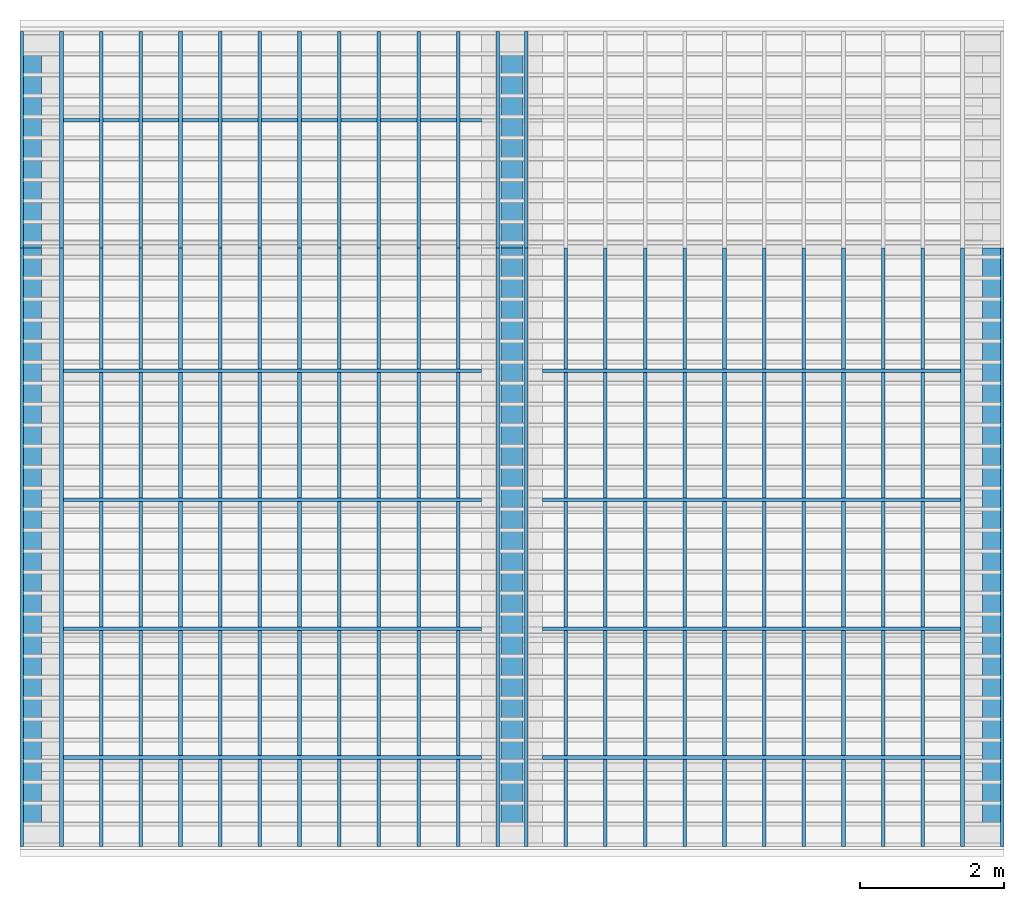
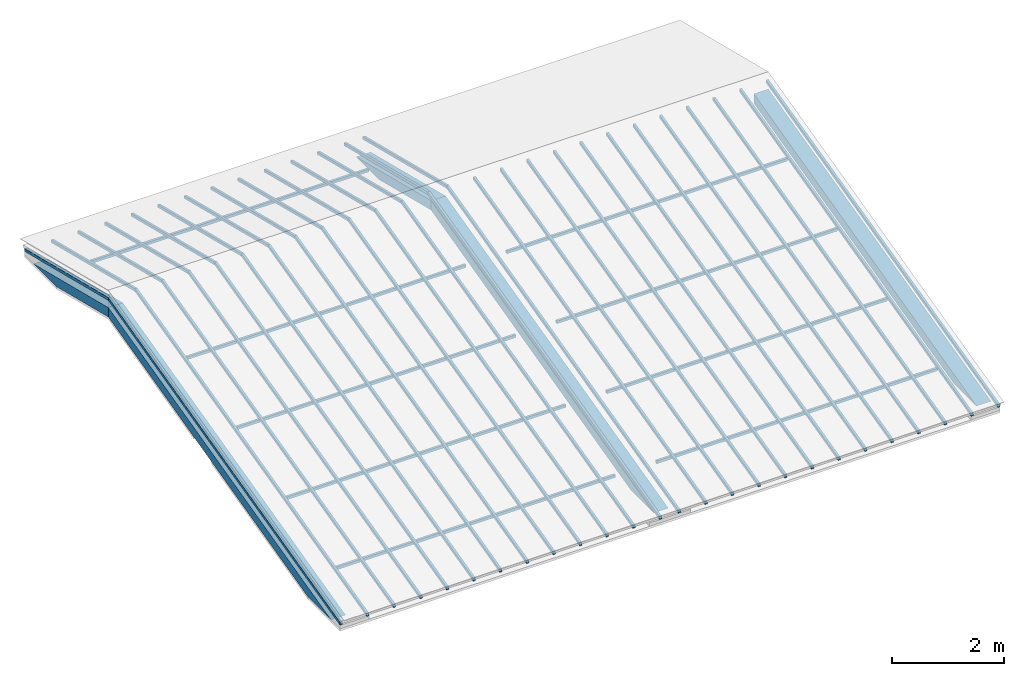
# One storey, part 1 of 3: 54 beams.
"""IFC2X3 building model written with IfcOpenShell, lengths in millimetres."""

import ifcopenshell
import ifcopenshell.guid

model = None  # the IFC model being written
_history = None  # IfcOwnerHistory: only IFC2X3 demands one
_inside = {}  # id of a spatial element -> (the spatial element, [elements in it])
_under = {}  # id of a project, library or spatial element -> (it, [spatial elements below it])
_declared = {}  # id of a project -> (the project, [libraries it declares])
_typed = {}  # id of a type object -> (the type object, [elements of that type])
_made_of = {}  # id of a material, layer set ... -> (it, [elements and type objects made of it])


def new_model(schema):
    """Start an empty IFC model of exactly this schema.

    Asked for "IFC4X3", IfcOpenShell would pick the latest addendum, in which some entities
    have other attributes; the version numbers below select the first issue.
    IFC2X3 requires an IfcOwnerHistory on every rooted entity: one is made here for all.
    """
    global model, _history
    if schema == "IFC4X3":
        model = ifcopenshell.file(schema_version=(4, 3, 0, 0))
    else:
        model = ifcopenshell.file(schema=schema)
    _inside.clear()
    _under.clear()
    _declared.clear()
    _typed.clear()
    _made_of.clear()
    _history = None
    if model.schema == "IFC2X3":
        org = make("IfcOrganization", Name="unknown")
        user = make(
            "IfcPersonAndOrganization",
            ThePerson=make("IfcPerson", FamilyName="unknown"),
            TheOrganization=org,
        )
        app = make(
            "IfcApplication",
            ApplicationDeveloper=org,
            Version="unknown",
            ApplicationFullName="unknown",
            ApplicationIdentifier="unknown",
        )
        _history = make(
            "IfcOwnerHistory",
            OwningUser=user,
            OwningApplication=app,
            ChangeAction="ADDED",
            CreationDate=0,
        )
    return model


def make(cls, **values):
    """One entity of the class cls with the attributes given. An attribute that is None is left unset."""
    return model.create_entity(
        cls, **{name: value for name, value in values.items() if value is not None}
    )


def entity(cls, *values):
    """Any entity or typed value of the class cls, its attributes in the order of the schema. None: left unset."""
    e = model.create_entity(cls)
    for i, value in enumerate(values):
        if value is not None:
            e[i] = value
    return e


def rooted(cls, **values):
    """An entity with a GlobalId (a new one), such as an element, a storey or a relation."""
    return make(cls, GlobalId=ifcopenshell.guid.new(), OwnerHistory=_history, **values)


def si_unit(unit_type, name, prefix=None):
    """IfcSIUnit, for example si_unit("LENGTHUNIT", "METRE", prefix="MILLI")."""
    return make("IfcSIUnit", UnitType=unit_type, Prefix=prefix, Name=name)


def converted_unit(unit_type, name, factor, base, dimensions=None, offset=None):
    """IfcConversionBasedUnit, such as the inch: factor (a typed value) times the base unit."""
    return make(
        "IfcConversionBasedUnit"
        if offset is None
        else "IfcConversionBasedUnitWithOffset",
        ConversionOffset=offset,
        Dimensions=None
        if dimensions is None
        else entity("IfcDimensionalExponents", *dimensions),
        UnitType=unit_type,
        Name=name,
        ConversionFactor=make(
            "IfcMeasureWithUnit", ValueComponent=factor, UnitComponent=base
        ),
    )


def derived_unit(unit_type, elements):
    """IfcDerivedUnit: a product of units, each with its exponent."""
    return make(
        "IfcDerivedUnit",
        Elements=[
            make("IfcDerivedUnitElement", Unit=unit, Exponent=power)
            for unit, power in elements
        ],
        UnitType=unit_type,
    )


def money_unit(currency):
    """IfcMonetaryUnit."""
    return make("IfcMonetaryUnit", Currency=currency)


def assignment(units):
    """IfcUnitAssignment: the units of a project."""
    return None if units is None else make("IfcUnitAssignment", Units=units)


def point(xyz):
    """IfcCartesianPoint."""
    return None if xyz is None else make("IfcCartesianPoint", Coordinates=xyz)


def direction(xyz):
    """IfcDirection."""
    return None if xyz is None else make("IfcDirection", DirectionRatios=xyz)


def frame(location, z_axis=None, x_axis=None):
    """IfcAxis2Placement3D, a coordinate frame: its origin and axes. An axis left out is left unset."""
    return make(
        "IfcAxis2Placement3D",
        Location=point(location),
        Axis=direction(z_axis),
        RefDirection=direction(x_axis),
    )


def frame_2d(location, x_axis=None):
    """IfcAxis2Placement2D, a coordinate frame in the plane: its origin and x axis."""
    return make(
        "IfcAxis2Placement2D", Location=point(location), RefDirection=direction(x_axis)
    )


def origin_with_axes():
    """The frame at (0, 0, 0) with the z axis (0, 0, 1) and the x axis (1, 0, 0) written out."""
    return frame((0.0, 0.0, 0.0), z_axis=(0.0, 0.0, 1.0), x_axis=(1.0, 0.0, 0.0))


def place(relative_to, where):
    """IfcLocalPlacement: puts the frame where relative to a parent placement (None: the world)."""
    return make(
        "IfcLocalPlacement", PlacementRelTo=relative_to, RelativePlacement=where
    )


def context(
    kind, dimensions, precision=None, world=None, true_north=None, identifier=None
):
    """IfcGeometricRepresentationContext, for example the 3D "Model" context."""
    return make(
        "IfcGeometricRepresentationContext",
        ContextIdentifier=identifier,
        ContextType=kind,
        CoordinateSpaceDimension=dimensions,
        Precision=precision,
        WorldCoordinateSystem=world,
        TrueNorth=true_north,
    )


def subcontext(parent, identifier, kind, view, scale=None):
    """IfcGeometricRepresentationSubContext, for example "Body" below "Model"."""
    return make(
        "IfcGeometricRepresentationSubContext",
        ContextIdentifier=identifier,
        ContextType=kind,
        ParentContext=parent,
        TargetScale=scale,
        TargetView=view,
    )


def project(units=None, contexts=None):
    """IfcProject with its units and contexts."""
    return rooted(
        "IfcProject",
        Name="project",
        RepresentationContexts=contexts,
        UnitsInContext=assignment(units),
    )


def spatial(cls, under=None, at=None, **own):
    """A site, building, storey or space (cls), placed at a placement, below another one or the project."""
    s = rooted(cls, ObjectPlacement=at, **own)
    if under is not None:
        _under.setdefault(under.id(), (under, []))[1].append(s)
    return s


def profile(cls, at=None, kind="AREA", **sizes):
    """A parametric profile (cls). Its sizes go by their IFC names, for example OverallWidth=200.0."""
    return make(cls, ProfileType=kind, Position=at, **sizes)


def rectangle(**sizes):
    """IfcRectangleProfileDef."""
    return profile("IfcRectangleProfileDef", **sizes)


def extrude(swept, where, along, depth):
    """IfcExtrudedAreaSolid: the profile swept, set in the frame where, extruded along a direction by depth."""
    return make(
        "IfcExtrudedAreaSolid",
        SweptArea=swept,
        Position=where,
        ExtrudedDirection=direction(along),
        Depth=depth,
    )


def clip(a, b, op="DIFFERENCE"):
    """IfcBooleanClippingResult: the solid a cut by the half space b."""
    return make(
        "IfcBooleanClippingResult", Operator=op, FirstOperand=a, SecondOperand=b
    )


def halfspace(plane, agree):
    """IfcHalfSpaceSolid: all space on one side of the plane z = 0 of the frame plane."""
    return make(
        "IfcHalfSpaceSolid",
        BaseSurface=make("IfcPlane", Position=plane),
        AgreementFlag=agree,
    )


def shape(context_of_items, identifier, shape_type, items):
    """IfcShapeRepresentation: the items that make up one representation, for example the "Body"."""
    return make(
        "IfcShapeRepresentation",
        ContextOfItems=context_of_items,
        RepresentationIdentifier=identifier,
        RepresentationType=shape_type,
        Items=items,
    )


def material(Name=None, Category=None):
    """IfcMaterial."""
    return make("IfcMaterial", Name=Name, Category=Category)


def made_of(thing, what):
    """Note that an element or type object is made of a material, layer set ...; save() writes the relation."""
    if what is not None:
        _made_of.setdefault(what.id(), (what, []))[1].append(thing)
    return thing


def type_object(cls, material=None, **own):
    """A type object (cls), such as IfcWallType, which elements share."""
    return made_of(rooted(cls, **own), material)


def element(
    cls,
    number,
    at=None,
    inside=None,
    cuts=None,
    type_object=None,
    material=None,
    context=None,
    identifier="Body",
    shape_type=None,
    held_by="IfcProductDefinitionShape",
    body=None,
    shapes=None,
    **own,
):
    """One element of the class cls, such as IfcWall. Its Tag is "e" and its number.

    at: its placement. inside: the storey or other place that contains it. cuts: it is an
    opening in that element (IfcRelVoidsElement). A single representation is given by context,
    identifier, shape_type and body (its items); several are given by shapes. held_by: the class
    of the entity that holds the representations. save() writes the other relations.
    """
    e = rooted(cls, Tag="e%d" % number, ObjectPlacement=at, **own)
    if body is not None:
        shapes = [shape(context, identifier, shape_type, body)]
    if shapes is not None:
        e.Representation = make(held_by, Representations=shapes)
    if inside is not None:
        _inside.setdefault(inside.id(), (inside, []))[1].append(e)
    if cuts is not None:
        rooted(
            "IfcRelVoidsElement", RelatingBuildingElement=cuts, RelatedOpeningElement=e
        )
    if type_object is not None:
        _typed.setdefault(type_object.id(), (type_object, []))[1].append(e)
    return made_of(e, material)


def aggregate(whole, parts):
    """IfcRelAggregates: a whole, such as a stair, and the parts it consists of."""
    return rooted("IfcRelAggregates", RelatingObject=whole, RelatedObjects=parts)


def save(model, path):
    """Write the relations noted so far, then the file.

    IfcRelAggregates (storeys below a building ...), IfcRelContainedInSpatialStructure (elements
    in a storey), IfcRelDefinesByType, IfcRelAssociatesMaterial and IfcRelDeclares: one each for
    every whole, place, type object, material and project.
    """
    for whole, parts in _under.values():
        aggregate(whole, parts)
    for where, things in _inside.values():
        rooted(
            "IfcRelContainedInSpatialStructure",
            RelatedElements=things,
            RelatingStructure=where,
        )
    for kind, things in _typed.values():
        rooted("IfcRelDefinesByType", RelatedObjects=things, RelatingType=kind)
    for what, things in _made_of.values():
        rooted("IfcRelAssociatesMaterial", RelatedObjects=things, RelatingMaterial=what)
    for by, libraries in _declared.values():
        rooted("IfcRelDeclares", RelatingContext=by, RelatedDefinitions=libraries)
    model.write(path)


model = new_model("IFC2X3")

# Units and contexts
model_context = context("Model", 3, precision=0.01, world=origin_with_axes(), true_north=direction((0.293984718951, 0.955810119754)))
body_context = subcontext(model_context, "Body", "Model", "MODEL_VIEW")
ifc_project = project(units=[si_unit("LENGTHUNIT", "METRE", prefix="MILLI"), si_unit("AREAUNIT", "SQUARE_METRE"), si_unit("VOLUMEUNIT", "CUBIC_METRE"), converted_unit("PLANEANGLEUNIT", "DEGREE", entity("IfcPlaneAngleMeasure", 0.0174532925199), si_unit("PLANEANGLEUNIT", "RADIAN"), dimensions=[0, 0, 0, 0, 0, 0, 0]), si_unit("SOLIDANGLEUNIT", "STERADIAN"), money_unit("USD"), converted_unit("TIMEUNIT", "Year", entity("IfcTimeMeasure", 31556926.0), si_unit("TIMEUNIT", "SECOND"), dimensions=[0, 0, 1, 0, 0, 0, 0]), si_unit("MASSUNIT", "GRAM", prefix="KILO"), si_unit("THERMODYNAMICTEMPERATUREUNIT", "DEGREE_CELSIUS"), si_unit("LUMINOUSINTENSITYUNIT", "LUMEN"), si_unit("ENERGYUNIT", "JOULE", prefix="MEGA"), derived_unit("THERMALCONDUCTANCEUNIT", [(si_unit("POWERUNIT", "WATT"), 1), (si_unit("LENGTHUNIT", "METRE"), -1), (si_unit("THERMODYNAMICTEMPERATUREUNIT", "KELVIN"), -1)]), derived_unit("SPECIFICHEATCAPACITYUNIT", [(si_unit("ENERGYUNIT", "JOULE"), 1), (si_unit("MASSUNIT", "GRAM", prefix="KILO"), -1), (si_unit("THERMODYNAMICTEMPERATUREUNIT", "KELVIN"), -1)]), derived_unit("MASSDENSITYUNIT", [(si_unit("MASSUNIT", "GRAM", prefix="KILO"), 1), (si_unit("VOLUMEUNIT", "CUBIC_METRE"), -1)])], contexts=[model_context])

# Site, building, storey
site_placement = place(None, origin_with_axes())
site = spatial("IfcSite", under=ifc_project, at=site_placement, Name="Local", CompositionType="ELEMENT")
building_placement = place(site_placement, origin_with_axes())
building = spatial("IfcBuilding", under=site, at=building_placement, Name="Construção", CompositionType="ELEMENT")
storey_placement = place(building_placement, frame((0.0, 0.0, 5800.0), z_axis=(0.0, 0.0, 1.0), x_axis=(1.0, 0.0, 0.0)))
storey = spatial("IfcBuildingStorey", under=building, at=storey_placement, Name="Pavimento Cobertura", CompositionType="ELEMENT", Elevation=5800.0)

# Beams
ifc_material_1 = material(Name="Concreto Armado - Estrutural")
beam_type_1 = type_object("IfcBeamType", Name="Concreto Armado - Estrutural 300 x 200", PredefinedType="NOTDEFINED")
beam_1_placement = place(storey_placement, frame((20649.6450715, 10787.3064984, 513.403828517), z_axis=(0.0, 0.0, 1.0), x_axis=(-1.0, -1.60654731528e-10, 0.0)))
element("IfcBeam", 1, at=beam_1_placement, inside=storey, type_object=beam_type_1, material=ifc_material_1, Name="V11", context=body_context, shape_type="Clipping", body=[
    clip(clip(extrude(rectangle(XDim=200.0, YDim=300.0, at=frame_2d((100.0, 150.0), x_axis=(1.0, 0.0))), frame((0.0, -68.4258451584, 17.0604793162), z_axis=(0.0, 0.970295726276, -0.2419218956), x_axis=(0.0, 0.2419218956, 0.970295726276)), (0.0, 0.0, 1.0), 8571.25168252), halfspace(frame((0.0, 0.0, 0.0), z_axis=(0.0, 1.0, 0.0), x_axis=(0.0, 0.0, 1.0)), True)), halfspace(frame((0.0, 0.0, -1782.07190026), z_axis=(0.0, 0.0, 1.0), x_axis=(0.0, -1.0, 0.0)), True)),
])
beam_2_placement = place(storey_placement, frame((7009.64507382, 10787.3064984, 513.403828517), z_axis=(0.0, 0.0, 1.0), x_axis=(1.0, 4.20530067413e-10, 0.0)))
element("IfcBeam", 2, at=beam_2_placement, inside=storey, type_object=beam_type_1, material=ifc_material_1, Name="V10", context=body_context, shape_type="Clipping", body=[
    clip(clip(extrude(rectangle(XDim=200.0, YDim=300.0, at=frame_2d((100.0, 150.0), x_axis=(1.0, 0.0))), frame((0.0, -68.4258451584, 17.0604793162), z_axis=(0.0, 0.970295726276, -0.2419218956), x_axis=(0.0, 0.2419218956, 0.970295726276)), (0.0, 0.0, 1.0), 3114.15251581), halfspace(frame((0.0, 0.0, 0.0), z_axis=(0.0, 1.0, 0.0), x_axis=(0.0, 0.0, 1.0)), True)), halfspace(frame((0.0, 0.0, -461.880125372), z_axis=(0.0, 0.0, 1.0), x_axis=(0.0, -1.0, 0.0)), True)),
])
beam_3_placement = place(storey_placement, frame((7009.64507382, 10787.3064984, 513.403828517), z_axis=(0.0, 0.0, 1.0), x_axis=(-1.0, 1.60654482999e-10, 0.0)))
element("IfcBeam", 3, at=beam_3_placement, inside=storey, type_object=beam_type_1, material=ifc_material_1, Name="V11", context=body_context, shape_type="Clipping", body=[
    clip(clip(extrude(rectangle(XDim=200.0, YDim=300.0, at=frame_2d((100.0, -150.0), x_axis=(1.0, 0.0))), frame((0.0, -68.4258451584, 17.0604793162), z_axis=(0.0, 0.970295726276, -0.2419218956), x_axis=(0.0, 0.2419218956, 0.970295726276)), (0.0, 0.0, 1.0), 8571.25168252), halfspace(frame((0.0, 0.0, 0.0), z_axis=(0.0, 1.0, 0.0), x_axis=(0.0, 0.0, 1.0)), True)), halfspace(frame((0.0, 0.0, -1782.07190026), z_axis=(0.0, 0.0, 1.0), x_axis=(0.0, -1.0, 0.0)), True)),
])
beam_4_placement = place(storey_placement, frame((13829.6450728, 10787.3064984, 513.403828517), z_axis=(0.0, 0.0, 1.0), x_axis=(1.0, 4.20530067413e-10, 0.0)))
element("IfcBeam", 4, at=beam_4_placement, inside=storey, type_object=beam_type_1, material=ifc_material_1, Name="V10", context=body_context, shape_type="Clipping", body=[
    clip(clip(extrude(rectangle(XDim=200.0, YDim=300.0, at=frame_2d((100.0, 0.0), x_axis=(1.0, 0.0))), frame((0.0, -68.4258451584, 17.0604793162), z_axis=(0.0, 0.970295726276, -0.2419218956), x_axis=(0.0, 0.2419218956, 0.970295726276)), (0.0, 0.0, 1.0), 3114.15251581), halfspace(frame((0.0, 0.0, 0.0), z_axis=(0.0, 1.0, 0.0), x_axis=(0.0, 0.0, 1.0)), True)), halfspace(frame((0.0, 0.0, -461.880125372), z_axis=(0.0, 0.0, 1.0), x_axis=(0.0, -1.0, 0.0)), True)),
])
beam_5_placement = place(storey_placement, frame((13829.6450728, 10787.3064984, 513.403828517), z_axis=(0.0, 0.0, 1.0), x_axis=(-1.0, 1.60654482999e-10, 0.0)))
element("IfcBeam", 5, at=beam_5_placement, inside=storey, type_object=beam_type_1, material=ifc_material_1, Name="V11", context=body_context, shape_type="Clipping", body=[
    clip(clip(extrude(rectangle(XDim=200.0, YDim=300.0, at=frame_2d((100.0, 0.0), x_axis=(1.0, 0.0))), frame((0.0, -68.4258451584, 17.0604793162), z_axis=(0.0, 0.970295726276, -0.2419218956), x_axis=(0.0, 0.2419218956, 0.970295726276)), (0.0, 0.0, 1.0), 8571.25168252), halfspace(frame((0.0, 0.0, 0.0), z_axis=(0.0, 1.0, 0.0), x_axis=(0.0, 0.0, 1.0)), True)), halfspace(frame((0.0, 0.0, -1782.07190026), z_axis=(0.0, 0.0, 1.0), x_axis=(0.0, -1.0, 0.0)), True)),
])
ifc_material_2 = material(Name="Madeiramento - Cobertura")
beam_type_2 = type_object("IfcBeamType", Name="Madeiramento - Cobertura 50 x 60", PredefinedType="NOTDEFINED")
for number, where, z_axis, x_axis, name in (
    (6, (20049.645072, 9060.43149838, 401.174540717), (0.0, 0.0, 1.0), (0.0, 1.0, 0.0), "Caibro"),
    (7, (20049.645072, 7273.55649844, -44.3434370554), (0.0, 0.0, 1.0), (0.0, 1.0, 0.0), "Caibro"),
    (8, (20049.645072, 5486.6814985, -489.861414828), (0.0, 0.0, 1.0), (0.0, 1.0, 0.0), "Caibro"),
    (9, (20049.645072, 3699.80649857, -935.3793926), (0.0, 0.0, 1.0), (0.0, 1.0, 0.0), "Caibro"),
):
    element("IfcBeam", number, at=place(storey_placement, frame(where, z_axis=z_axis, x_axis=x_axis)), inside=storey, type_object=beam_type_2, material=ifc_material_2, Name=name, context=body_context, shape_type="SweptSolid", body=[
        extrude(rectangle(XDim=60.0, YDim=50.0, at=frame_2d((30.0, 25.0), x_axis=(1.0, 0.0))), frame((0.0, 0.0, 0.0), z_axis=(0.0, 1.0, 0.0), x_axis=(0.0, 0.0, 1.0)), (0.0, 0.0, 1.0), 5794.99999926),
    ])
for number, where, z_axis, x_axis, name in (
    (10, (20649.6450715, 10787.3064984, 874.118598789), (0.0, 0.0, 1.0), (-1.0, -1.38389062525e-10, 0.0), "Caibro"),
    (11, (20099.6450715, 10787.3064984, 874.118598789), (0.0, 0.0, 1.0), (-1.0, -1.38389062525e-10, 0.0), "Caibro"),
    (12, (19549.6450715, 10787.3064984, 874.118598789), (0.0, 0.0, 1.0), (-1.0, -1.38389062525e-10, 0.0), "Caibro"),
    (13, (18999.6450715, 10787.3064984, 874.118598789), (0.0, 0.0, 1.0), (-1.0, -1.38389062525e-10, 0.0), "Caibro"),
    (14, (18449.6450715, 10787.3064984, 874.118598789), (0.0, 0.0, 1.0), (-1.0, -1.38389062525e-10, 0.0), "Caibro"),
    (15, (17899.6450715, 10787.3064984, 874.118598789), (0.0, 0.0, 1.0), (-1.0, -1.38389062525e-10, 0.0), "Caibro"),
    (16, (17349.6450715, 10787.3064984, 874.118598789), (0.0, 0.0, 1.0), (-1.0, -1.38389062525e-10, 0.0), "Caibro"),
    (17, (16799.6450715, 10787.3064984, 874.118598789), (0.0, 0.0, 1.0), (-1.0, -1.38389062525e-10, 0.0), "Caibro"),
    (18, (16249.6450715, 10787.3064984, 874.118598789), (0.0, 0.0, 1.0), (-1.0, -1.38389062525e-10, 0.0), "Caibro"),
    (19, (15699.6450715, 10787.3064984, 874.118598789), (0.0, 0.0, 1.0), (-1.0, -1.38389062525e-10, 0.0), "Caibro"),
    (20, (15149.6450715, 10787.3064984, 874.118598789), (0.0, 0.0, 1.0), (-1.0, -1.38389062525e-10, 0.0), "Caibro"),
    (21, (14599.6450715, 10787.3064984, 874.118598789), (0.0, 0.0, 1.0), (-1.0, -1.38389062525e-10, 0.0), "Caibro"),
    (22, (14049.6450715, 10787.3064983, 874.118598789), (0.0, 0.0, 1.0), (-1.0, -1.38389062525e-10, 0.0), "Caibro"),
):
    element("IfcBeam", number, at=place(storey_placement, frame(where, z_axis=z_axis, x_axis=x_axis)), inside=storey, type_object=beam_type_2, material=ifc_material_2, Name=name, context=body_context, shape_type="Clipping", body=[
        clip(clip(extrude(rectangle(XDim=60.0, YDim=50.0, at=frame_2d((30.0, 25.0), x_axis=(1.0, 0.0))), frame((0.0, -20.5277535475, 5.11814379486), z_axis=(0.0, 0.970295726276, -0.2419218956), x_axis=(0.0, 0.2419218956, 0.970295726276)), (0.0, 0.0, 1.0), 8593.82895444), halfspace(frame((0.0, 0.0, 0.0), z_axis=(0.0, 1.0, 0.0), x_axis=(0.0, 0.0, 1.0)), True)), halfspace(frame((0.0, 8297.49999975, 0.0), z_axis=(0.0, -1.0, 0.0), x_axis=(0.0, 0.0, -1.0)), True)),
    ])
beam_6_placement = place(storey_placement, frame((14049.6450715, 10787.3064983, 874.118598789), z_axis=(0.0, 0.0, 1.0), x_axis=(1.0, -2.59461099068e-10, 0.0)))
element("IfcBeam", 23, at=beam_6_placement, inside=storey, type_object=beam_type_2, material=ifc_material_2, Name="Caibro", context=body_context, shape_type="Clipping", body=[
    clip(clip(extrude(rectangle(XDim=60.0, YDim=50.0, at=frame_2d((30.0, -25.0), x_axis=(1.0, 0.0))), frame((0.0, -20.5277535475, 5.11814379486), z_axis=(0.0, 0.970295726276, -0.2419218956), x_axis=(0.0, 0.2419218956, 0.970295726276)), (0.0, 0.0, 1.0), 3136.72978773), halfspace(frame((0.0, 0.0, 0.0), z_axis=(0.0, 1.0, 0.0), x_axis=(0.0, 0.0, 1.0)), True)), halfspace(frame((0.0, 3002.50000042, 0.0), z_axis=(0.0, -1.0, 0.0), x_axis=(0.0, 0.0, -1.0)), True)),
])
for number, where, z_axis, x_axis, name in (
    (24, (7609.64507336, 12535.6308554, 383.360217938), (0.0, 0.0, 1.0), (0.0, -1.0, 0.0), "Caibro"),
    (25, (7609.64507336, 9060.43149838, 401.174540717), (0.0, 0.0, 1.0), (0.0, -1.0, 0.0), "Caibro"),
    (26, (7609.64507336, 7273.55649844, -44.3434370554), (0.0, 0.0, 1.0), (0.0, -1.0, 0.0), "Caibro"),
    (27, (7609.64507336, 5486.6814985, -489.861414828), (0.0, 0.0, 1.0), (0.0, -1.0, 0.0), "Caibro"),
    (28, (7609.64507336, 3699.80649857, -935.3793926), (0.0, 0.0, 1.0), (0.0, -1.0, 0.0), "Caibro"),
):
    element("IfcBeam", number, at=place(storey_placement, frame(where, z_axis=z_axis, x_axis=x_axis)), inside=storey, type_object=beam_type_2, material=ifc_material_2, Name=name, context=body_context, shape_type="SweptSolid", body=[
        extrude(rectangle(XDim=60.0, YDim=50.0, at=frame_2d((30.0, -25.0), x_axis=(1.0, 0.0))), frame((0.0, 0.0, 0.0), z_axis=(0.0, 1.0, 0.0), x_axis=(0.0, 0.0, 1.0)), (0.0, 0.0, 1.0), 5794.99999926),
    ])
beam_7_placement = place(storey_placement, frame((7009.64507382, 10787.3064984, 874.118598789), z_axis=(0.0, 0.0, 1.0), x_axis=(-1.0, 1.383887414e-10, 0.0)))
element("IfcBeam", 29, at=beam_7_placement, inside=storey, type_object=beam_type_2, material=ifc_material_2, Name="Caibro", context=body_context, shape_type="Clipping", body=[
    clip(clip(extrude(rectangle(XDim=60.0, YDim=50.0, at=frame_2d((30.0, -25.0), x_axis=(1.0, 0.0))), frame((0.0, -20.5277535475, 5.11814379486), z_axis=(0.0, 0.970295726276, -0.2419218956), x_axis=(0.0, 0.2419218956, 0.970295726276)), (0.0, 0.0, 1.0), 8593.82895444), halfspace(frame((0.0, 0.0, 0.0), z_axis=(0.0, 1.0, 0.0), x_axis=(0.0, 0.0, 1.0)), True)), halfspace(frame((0.0, 8297.49999975, 0.0), z_axis=(0.0, -1.0, 0.0), x_axis=(0.0, 0.0, -1.0)), True)),
])
beam_8_placement = place(storey_placement, frame((7009.64507382, 10787.3064984, 874.118598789), z_axis=(0.0, 0.0, 1.0), x_axis=(1.0, 2.59461099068e-10, 0.0)))
element("IfcBeam", 30, at=beam_8_placement, inside=storey, type_object=beam_type_2, material=ifc_material_2, Name="Caibro", context=body_context, shape_type="Clipping", body=[
    clip(clip(extrude(rectangle(XDim=60.0, YDim=50.0, at=frame_2d((30.0, 25.0), x_axis=(1.0, 0.0))), frame((0.0, -20.5277535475, 5.11814379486), z_axis=(0.0, 0.970295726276, -0.2419218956), x_axis=(0.0, 0.2419218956, 0.970295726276)), (0.0, 0.0, 1.0), 3136.72978773), halfspace(frame((0.0, 0.0, 0.0), z_axis=(0.0, 1.0, 0.0), x_axis=(0.0, 0.0, 1.0)), True)), halfspace(frame((0.0, 3002.50000042, 0.0), z_axis=(0.0, -1.0, 0.0), x_axis=(0.0, 0.0, -1.0)), True)),
])
beam_9_placement = place(storey_placement, frame((7559.64507382, 10787.3064984, 874.118598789), z_axis=(0.0, 0.0, 1.0), x_axis=(-1.0, 1.383887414e-10, 0.0)))
element("IfcBeam", 31, at=beam_9_placement, inside=storey, type_object=beam_type_2, material=ifc_material_2, Name="Caibro", context=body_context, shape_type="Clipping", body=[
    clip(clip(extrude(rectangle(XDim=60.0, YDim=50.0, at=frame_2d((30.0, -25.0), x_axis=(1.0, 0.0))), frame((0.0, -20.5277535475, 5.11814379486), z_axis=(0.0, 0.970295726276, -0.2419218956), x_axis=(0.0, 0.2419218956, 0.970295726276)), (0.0, 0.0, 1.0), 8593.82895444), halfspace(frame((0.0, 0.0, 0.0), z_axis=(0.0, 1.0, 0.0), x_axis=(0.0, 0.0, 1.0)), True)), halfspace(frame((0.0, 8297.49999975, 0.0), z_axis=(0.0, -1.0, 0.0), x_axis=(0.0, 0.0, -1.0)), True)),
])
beam_10_placement = place(storey_placement, frame((7559.64507382, 10787.3064984, 874.118598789), z_axis=(0.0, 0.0, 1.0), x_axis=(1.0, 2.59461099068e-10, 0.0)))
element("IfcBeam", 32, at=beam_10_placement, inside=storey, type_object=beam_type_2, material=ifc_material_2, Name="Caibro", context=body_context, shape_type="Clipping", body=[
    clip(clip(extrude(rectangle(XDim=60.0, YDim=50.0, at=frame_2d((30.0, 25.0), x_axis=(1.0, 0.0))), frame((0.0, -20.5277535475, 5.11814379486), z_axis=(0.0, 0.970295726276, -0.2419218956), x_axis=(0.0, 0.2419218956, 0.970295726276)), (0.0, 0.0, 1.0), 3136.72978773), halfspace(frame((0.0, 0.0, 0.0), z_axis=(0.0, 1.0, 0.0), x_axis=(0.0, 0.0, 1.0)), True)), halfspace(frame((0.0, 3002.50000042, 0.0), z_axis=(0.0, -1.0, 0.0), x_axis=(0.0, 0.0, -1.0)), True)),
])
beam_11_placement = place(storey_placement, frame((8109.64507382, 10787.3064984, 874.118598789), z_axis=(0.0, 0.0, 1.0), x_axis=(-1.0, 1.38388634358e-10, 0.0)))
element("IfcBeam", 33, at=beam_11_placement, inside=storey, type_object=beam_type_2, material=ifc_material_2, Name="Caibro", context=body_context, shape_type="Clipping", body=[
    clip(clip(extrude(rectangle(XDim=60.0, YDim=50.0, at=frame_2d((30.0, -25.0), x_axis=(1.0, 0.0))), frame((0.0, -20.5277535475, 5.11814379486), z_axis=(0.0, 0.970295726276, -0.2419218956), x_axis=(0.0, 0.2419218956, 0.970295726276)), (0.0, 0.0, 1.0), 8593.82895444), halfspace(frame((0.0, 0.0, 0.0), z_axis=(0.0, 1.0, 0.0), x_axis=(0.0, 0.0, 1.0)), True)), halfspace(frame((0.0, 8297.49999975, 0.0), z_axis=(0.0, -1.0, 0.0), x_axis=(0.0, 0.0, -1.0)), True)),
])
beam_12_placement = place(storey_placement, frame((8109.64507382, 10787.3064984, 874.118598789), z_axis=(0.0, 0.0, 1.0), x_axis=(1.0, 2.59461099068e-10, 0.0)))
element("IfcBeam", 34, at=beam_12_placement, inside=storey, type_object=beam_type_2, material=ifc_material_2, Name="Caibro", context=body_context, shape_type="Clipping", body=[
    clip(clip(extrude(rectangle(XDim=60.0, YDim=50.0, at=frame_2d((30.0, 25.0), x_axis=(1.0, 0.0))), frame((0.0, -20.5277535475, 5.11814379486), z_axis=(0.0, 0.970295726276, -0.2419218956), x_axis=(0.0, 0.2419218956, 0.970295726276)), (0.0, 0.0, 1.0), 3136.72978773), halfspace(frame((0.0, 0.0, 0.0), z_axis=(0.0, 1.0, 0.0), x_axis=(0.0, 0.0, 1.0)), True)), halfspace(frame((0.0, 3002.50000042, 0.0), z_axis=(0.0, -1.0, 0.0), x_axis=(0.0, 0.0, -1.0)), True)),
])
beam_13_placement = place(storey_placement, frame((8659.64507382, 10787.3064984, 874.118598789), z_axis=(0.0, 0.0, 1.0), x_axis=(-1.0, 1.38388634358e-10, 0.0)))
element("IfcBeam", 35, at=beam_13_placement, inside=storey, type_object=beam_type_2, material=ifc_material_2, Name="Caibro", context=body_context, shape_type="Clipping", body=[
    clip(clip(extrude(rectangle(XDim=60.0, YDim=50.0, at=frame_2d((30.0, -25.0), x_axis=(1.0, 0.0))), frame((0.0, -20.5277535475, 5.11814379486), z_axis=(0.0, 0.970295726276, -0.2419218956), x_axis=(0.0, 0.2419218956, 0.970295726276)), (0.0, 0.0, 1.0), 8593.82895444), halfspace(frame((0.0, 0.0, 0.0), z_axis=(0.0, 1.0, 0.0), x_axis=(0.0, 0.0, 1.0)), True)), halfspace(frame((0.0, 8297.49999975, 0.0), z_axis=(0.0, -1.0, 0.0), x_axis=(0.0, 0.0, -1.0)), True)),
])
beam_14_placement = place(storey_placement, frame((8659.64507382, 10787.3064984, 874.118598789), z_axis=(0.0, 0.0, 1.0), x_axis=(1.0, 2.59461099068e-10, 0.0)))
element("IfcBeam", 36, at=beam_14_placement, inside=storey, type_object=beam_type_2, material=ifc_material_2, Name="Caibro", context=body_context, shape_type="Clipping", body=[
    clip(clip(extrude(rectangle(XDim=60.0, YDim=50.0, at=frame_2d((30.0, 25.0), x_axis=(1.0, 0.0))), frame((0.0, -20.5277535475, 5.11814379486), z_axis=(0.0, 0.970295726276, -0.2419218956), x_axis=(0.0, 0.2419218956, 0.970295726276)), (0.0, 0.0, 1.0), 3136.72978773), halfspace(frame((0.0, 0.0, 0.0), z_axis=(0.0, 1.0, 0.0), x_axis=(0.0, 0.0, 1.0)), True)), halfspace(frame((0.0, 3002.50000042, 0.0), z_axis=(0.0, -1.0, 0.0), x_axis=(0.0, 0.0, -1.0)), True)),
])
beam_15_placement = place(storey_placement, frame((9209.64507382, 10787.3064984, 874.118598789), z_axis=(0.0, 0.0, 1.0), x_axis=(-1.0, 1.38388634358e-10, 0.0)))
element("IfcBeam", 37, at=beam_15_placement, inside=storey, type_object=beam_type_2, material=ifc_material_2, Name="Caibro", context=body_context, shape_type="Clipping", body=[
    clip(clip(extrude(rectangle(XDim=60.0, YDim=50.0, at=frame_2d((30.0, -25.0), x_axis=(1.0, 0.0))), frame((0.0, -20.5277535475, 5.11814379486), z_axis=(0.0, 0.970295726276, -0.2419218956), x_axis=(0.0, 0.2419218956, 0.970295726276)), (0.0, 0.0, 1.0), 8593.82895444), halfspace(frame((0.0, 0.0, 0.0), z_axis=(0.0, 1.0, 0.0), x_axis=(0.0, 0.0, 1.0)), True)), halfspace(frame((0.0, 8297.49999975, 0.0), z_axis=(0.0, -1.0, 0.0), x_axis=(0.0, 0.0, -1.0)), True)),
])
beam_16_placement = place(storey_placement, frame((9209.64507382, 10787.3064984, 874.118598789), z_axis=(0.0, 0.0, 1.0), x_axis=(1.0, 2.59461099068e-10, 0.0)))
element("IfcBeam", 38, at=beam_16_placement, inside=storey, type_object=beam_type_2, material=ifc_material_2, Name="Caibro", context=body_context, shape_type="Clipping", body=[
    clip(clip(extrude(rectangle(XDim=60.0, YDim=50.0, at=frame_2d((30.0, 25.0), x_axis=(1.0, 0.0))), frame((0.0, -20.5277535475, 5.11814379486), z_axis=(0.0, 0.970295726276, -0.2419218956), x_axis=(0.0, 0.2419218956, 0.970295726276)), (0.0, 0.0, 1.0), 3136.72978773), halfspace(frame((0.0, 0.0, 0.0), z_axis=(0.0, 1.0, 0.0), x_axis=(0.0, 0.0, 1.0)), True)), halfspace(frame((0.0, 3002.50000042, 0.0), z_axis=(0.0, -1.0, 0.0), x_axis=(0.0, 0.0, -1.0)), True)),
])
beam_17_placement = place(storey_placement, frame((9759.64507382, 10787.3064984, 874.118598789), z_axis=(0.0, 0.0, 1.0), x_axis=(-1.0, 1.38388634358e-10, 0.0)))
element("IfcBeam", 39, at=beam_17_placement, inside=storey, type_object=beam_type_2, material=ifc_material_2, Name="Caibro", context=body_context, shape_type="Clipping", body=[
    clip(clip(extrude(rectangle(XDim=60.0, YDim=50.0, at=frame_2d((30.0, -25.0), x_axis=(1.0, 0.0))), frame((0.0, -20.5277535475, 5.11814379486), z_axis=(0.0, 0.970295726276, -0.2419218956), x_axis=(0.0, 0.2419218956, 0.970295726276)), (0.0, 0.0, 1.0), 8593.82895444), halfspace(frame((0.0, 0.0, 0.0), z_axis=(0.0, 1.0, 0.0), x_axis=(0.0, 0.0, 1.0)), True)), halfspace(frame((0.0, 8297.49999975, 0.0), z_axis=(0.0, -1.0, 0.0), x_axis=(0.0, 0.0, -1.0)), True)),
])
beam_18_placement = place(storey_placement, frame((9759.64507382, 10787.3064984, 874.118598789), z_axis=(0.0, 0.0, 1.0), x_axis=(1.0, 2.59461099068e-10, 0.0)))
element("IfcBeam", 40, at=beam_18_placement, inside=storey, type_object=beam_type_2, material=ifc_material_2, Name="Caibro", context=body_context, shape_type="Clipping", body=[
    clip(clip(extrude(rectangle(XDim=60.0, YDim=50.0, at=frame_2d((30.0, 25.0), x_axis=(1.0, 0.0))), frame((0.0, -20.5277535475, 5.11814379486), z_axis=(0.0, 0.970295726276, -0.2419218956), x_axis=(0.0, 0.2419218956, 0.970295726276)), (0.0, 0.0, 1.0), 3136.72978773), halfspace(frame((0.0, 0.0, 0.0), z_axis=(0.0, 1.0, 0.0), x_axis=(0.0, 0.0, 1.0)), True)), halfspace(frame((0.0, 3002.50000042, 0.0), z_axis=(0.0, -1.0, 0.0), x_axis=(0.0, 0.0, -1.0)), True)),
])
beam_19_placement = place(storey_placement, frame((10309.6450738, 10787.3064984, 874.118598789), z_axis=(0.0, 0.0, 1.0), x_axis=(-1.0, 1.38388634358e-10, 0.0)))
element("IfcBeam", 41, at=beam_19_placement, inside=storey, type_object=beam_type_2, material=ifc_material_2, Name="Caibro", context=body_context, shape_type="Clipping", body=[
    clip(clip(extrude(rectangle(XDim=60.0, YDim=50.0, at=frame_2d((30.0, -25.0), x_axis=(1.0, 0.0))), frame((0.0, -20.5277535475, 5.11814379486), z_axis=(0.0, 0.970295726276, -0.2419218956), x_axis=(0.0, 0.2419218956, 0.970295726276)), (0.0, 0.0, 1.0), 8593.82895444), halfspace(frame((0.0, 0.0, 0.0), z_axis=(0.0, 1.0, 0.0), x_axis=(0.0, 0.0, 1.0)), True)), halfspace(frame((0.0, 8297.49999975, 0.0), z_axis=(0.0, -1.0, 0.0), x_axis=(0.0, 0.0, -1.0)), True)),
])
beam_20_placement = place(storey_placement, frame((10309.6450738, 10787.3064984, 874.118598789), z_axis=(0.0, 0.0, 1.0), x_axis=(1.0, 2.59461099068e-10, 0.0)))
element("IfcBeam", 42, at=beam_20_placement, inside=storey, type_object=beam_type_2, material=ifc_material_2, Name="Caibro", context=body_context, shape_type="Clipping", body=[
    clip(clip(extrude(rectangle(XDim=60.0, YDim=50.0, at=frame_2d((30.0, 25.0), x_axis=(1.0, 0.0))), frame((0.0, -20.5277535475, 5.11814379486), z_axis=(0.0, 0.970295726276, -0.2419218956), x_axis=(0.0, 0.2419218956, 0.970295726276)), (0.0, 0.0, 1.0), 3136.72978773), halfspace(frame((0.0, 0.0, 0.0), z_axis=(0.0, 1.0, 0.0), x_axis=(0.0, 0.0, 1.0)), True)), halfspace(frame((0.0, 3002.50000042, 0.0), z_axis=(0.0, -1.0, 0.0), x_axis=(0.0, 0.0, -1.0)), True)),
])
beam_21_placement = place(storey_placement, frame((10859.6450738, 10787.3064984, 874.118598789), z_axis=(0.0, 0.0, 1.0), x_axis=(-1.0, 1.38388634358e-10, 0.0)))
element("IfcBeam", 43, at=beam_21_placement, inside=storey, type_object=beam_type_2, material=ifc_material_2, Name="Caibro", context=body_context, shape_type="Clipping", body=[
    clip(clip(extrude(rectangle(XDim=60.0, YDim=50.0, at=frame_2d((30.0, -25.0), x_axis=(1.0, 0.0))), frame((0.0, -20.5277535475, 5.11814379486), z_axis=(0.0, 0.970295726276, -0.2419218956), x_axis=(0.0, 0.2419218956, 0.970295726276)), (0.0, 0.0, 1.0), 8593.82895444), halfspace(frame((0.0, 0.0, 0.0), z_axis=(0.0, 1.0, 0.0), x_axis=(0.0, 0.0, 1.0)), True)), halfspace(frame((0.0, 8297.49999975, 0.0), z_axis=(0.0, -1.0, 0.0), x_axis=(0.0, 0.0, -1.0)), True)),
])
beam_22_placement = place(storey_placement, frame((10859.6450738, 10787.3064984, 874.118598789), z_axis=(0.0, 0.0, 1.0), x_axis=(1.0, 2.59461099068e-10, 0.0)))
element("IfcBeam", 44, at=beam_22_placement, inside=storey, type_object=beam_type_2, material=ifc_material_2, Name="Caibro", context=body_context, shape_type="Clipping", body=[
    clip(clip(extrude(rectangle(XDim=60.0, YDim=50.0, at=frame_2d((30.0, 25.0), x_axis=(1.0, 0.0))), frame((0.0, -20.5277535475, 5.11814379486), z_axis=(0.0, 0.970295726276, -0.2419218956), x_axis=(0.0, 0.2419218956, 0.970295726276)), (0.0, 0.0, 1.0), 3136.72978773), halfspace(frame((0.0, 0.0, 0.0), z_axis=(0.0, 1.0, 0.0), x_axis=(0.0, 0.0, 1.0)), True)), halfspace(frame((0.0, 3002.50000042, 0.0), z_axis=(0.0, -1.0, 0.0), x_axis=(0.0, 0.0, -1.0)), True)),
])
beam_23_placement = place(storey_placement, frame((11409.6450738, 10787.3064984, 874.118598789), z_axis=(0.0, 0.0, 1.0), x_axis=(-1.0, 1.38388634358e-10, 0.0)))
element("IfcBeam", 45, at=beam_23_placement, inside=storey, type_object=beam_type_2, material=ifc_material_2, Name="Caibro", context=body_context, shape_type="Clipping", body=[
    clip(clip(extrude(rectangle(XDim=60.0, YDim=50.0, at=frame_2d((30.0, -25.0), x_axis=(1.0, 0.0))), frame((0.0, -20.5277535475, 5.11814379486), z_axis=(0.0, 0.970295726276, -0.2419218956), x_axis=(0.0, 0.2419218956, 0.970295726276)), (0.0, 0.0, 1.0), 8593.82895444), halfspace(frame((0.0, 0.0, 0.0), z_axis=(0.0, 1.0, 0.0), x_axis=(0.0, 0.0, 1.0)), True)), halfspace(frame((0.0, 8297.49999975, 0.0), z_axis=(0.0, -1.0, 0.0), x_axis=(0.0, 0.0, -1.0)), True)),
])
beam_24_placement = place(storey_placement, frame((11409.6450738, 10787.3064984, 874.118598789), z_axis=(0.0, 0.0, 1.0), x_axis=(1.0, 2.59461099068e-10, 0.0)))
element("IfcBeam", 46, at=beam_24_placement, inside=storey, type_object=beam_type_2, material=ifc_material_2, Name="Caibro", context=body_context, shape_type="Clipping", body=[
    clip(clip(extrude(rectangle(XDim=60.0, YDim=50.0, at=frame_2d((30.0, 25.0), x_axis=(1.0, 0.0))), frame((0.0, -20.5277535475, 5.11814379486), z_axis=(0.0, 0.970295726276, -0.2419218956), x_axis=(0.0, 0.2419218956, 0.970295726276)), (0.0, 0.0, 1.0), 3136.72978773), halfspace(frame((0.0, 0.0, 0.0), z_axis=(0.0, 1.0, 0.0), x_axis=(0.0, 0.0, 1.0)), True)), halfspace(frame((0.0, 3002.50000042, 0.0), z_axis=(0.0, -1.0, 0.0), x_axis=(0.0, 0.0, -1.0)), True)),
])
beam_25_placement = place(storey_placement, frame((11959.6450738, 10787.3064984, 874.118598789), z_axis=(0.0, 0.0, 1.0), x_axis=(-1.0, 1.38388634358e-10, 0.0)))
element("IfcBeam", 47, at=beam_25_placement, inside=storey, type_object=beam_type_2, material=ifc_material_2, Name="Caibro", context=body_context, shape_type="Clipping", body=[
    clip(clip(extrude(rectangle(XDim=60.0, YDim=50.0, at=frame_2d((30.0, -25.0), x_axis=(1.0, 0.0))), frame((0.0, -20.5277535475, 5.11814379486), z_axis=(0.0, 0.970295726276, -0.2419218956), x_axis=(0.0, 0.2419218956, 0.970295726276)), (0.0, 0.0, 1.0), 8593.82895444), halfspace(frame((0.0, 0.0, 0.0), z_axis=(0.0, 1.0, 0.0), x_axis=(0.0, 0.0, 1.0)), True)), halfspace(frame((0.0, 8297.49999975, 0.0), z_axis=(0.0, -1.0, 0.0), x_axis=(0.0, 0.0, -1.0)), True)),
])
beam_26_placement = place(storey_placement, frame((11959.6450738, 10787.3064984, 874.118598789), z_axis=(0.0, 0.0, 1.0), x_axis=(1.0, 2.59461099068e-10, 0.0)))
element("IfcBeam", 48, at=beam_26_placement, inside=storey, type_object=beam_type_2, material=ifc_material_2, Name="Caibro", context=body_context, shape_type="Clipping", body=[
    clip(clip(extrude(rectangle(XDim=60.0, YDim=50.0, at=frame_2d((30.0, 25.0), x_axis=(1.0, 0.0))), frame((0.0, -20.5277535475, 5.11814379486), z_axis=(0.0, 0.970295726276, -0.2419218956), x_axis=(0.0, 0.2419218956, 0.970295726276)), (0.0, 0.0, 1.0), 3136.72978773), halfspace(frame((0.0, 0.0, 0.0), z_axis=(0.0, 1.0, 0.0), x_axis=(0.0, 0.0, 1.0)), True)), halfspace(frame((0.0, 3002.50000042, 0.0), z_axis=(0.0, -1.0, 0.0), x_axis=(0.0, 0.0, -1.0)), True)),
])
beam_27_placement = place(storey_placement, frame((12509.6450738, 10787.3064984, 874.118598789), z_axis=(0.0, 0.0, 1.0), x_axis=(-1.0, 1.38388634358e-10, 0.0)))
element("IfcBeam", 49, at=beam_27_placement, inside=storey, type_object=beam_type_2, material=ifc_material_2, Name="Caibro", context=body_context, shape_type="Clipping", body=[
    clip(clip(extrude(rectangle(XDim=60.0, YDim=50.0, at=frame_2d((30.0, -25.0), x_axis=(1.0, 0.0))), frame((0.0, -20.5277535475, 5.11814379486), z_axis=(0.0, 0.970295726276, -0.2419218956), x_axis=(0.0, 0.2419218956, 0.970295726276)), (0.0, 0.0, 1.0), 8593.82895444), halfspace(frame((0.0, 0.0, 0.0), z_axis=(0.0, 1.0, 0.0), x_axis=(0.0, 0.0, 1.0)), True)), halfspace(frame((0.0, 8297.49999975, 0.0), z_axis=(0.0, -1.0, 0.0), x_axis=(0.0, 0.0, -1.0)), True)),
])
beam_28_placement = place(storey_placement, frame((12509.6450738, 10787.3064984, 874.118598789), z_axis=(0.0, 0.0, 1.0), x_axis=(1.0, 2.59461099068e-10, 0.0)))
element("IfcBeam", 50, at=beam_28_placement, inside=storey, type_object=beam_type_2, material=ifc_material_2, Name="Caibro", context=body_context, shape_type="Clipping", body=[
    clip(clip(extrude(rectangle(XDim=60.0, YDim=50.0, at=frame_2d((30.0, 25.0), x_axis=(1.0, 0.0))), frame((0.0, -20.5277535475, 5.11814379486), z_axis=(0.0, 0.970295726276, -0.2419218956), x_axis=(0.0, 0.2419218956, 0.970295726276)), (0.0, 0.0, 1.0), 3136.72978773), halfspace(frame((0.0, 0.0, 0.0), z_axis=(0.0, 1.0, 0.0), x_axis=(0.0, 0.0, 1.0)), True)), halfspace(frame((0.0, 3002.50000042, 0.0), z_axis=(0.0, -1.0, 0.0), x_axis=(0.0, 0.0, -1.0)), True)),
])
beam_29_placement = place(storey_placement, frame((13059.6450738, 10787.3064984, 874.118598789), z_axis=(0.0, 0.0, 1.0), x_axis=(-1.0, 1.38388634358e-10, 0.0)))
element("IfcBeam", 51, at=beam_29_placement, inside=storey, type_object=beam_type_2, material=ifc_material_2, Name="Caibro", context=body_context, shape_type="Clipping", body=[
    clip(clip(extrude(rectangle(XDim=60.0, YDim=50.0, at=frame_2d((30.0, -25.0), x_axis=(1.0, 0.0))), frame((0.0, -20.5277535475, 5.11814379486), z_axis=(0.0, 0.970295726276, -0.2419218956), x_axis=(0.0, 0.2419218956, 0.970295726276)), (0.0, 0.0, 1.0), 8593.82895444), halfspace(frame((0.0, 0.0, 0.0), z_axis=(0.0, 1.0, 0.0), x_axis=(0.0, 0.0, 1.0)), True)), halfspace(frame((0.0, 8297.49999975, 0.0), z_axis=(0.0, -1.0, 0.0), x_axis=(0.0, 0.0, -1.0)), True)),
])
beam_30_placement = place(storey_placement, frame((13059.6450738, 10787.3064984, 874.118598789), z_axis=(0.0, 0.0, 1.0), x_axis=(1.0, 2.59461099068e-10, 0.0)))
element("IfcBeam", 52, at=beam_30_placement, inside=storey, type_object=beam_type_2, material=ifc_material_2, Name="Caibro", context=body_context, shape_type="Clipping", body=[
    clip(clip(extrude(rectangle(XDim=60.0, YDim=50.0, at=frame_2d((30.0, 25.0), x_axis=(1.0, 0.0))), frame((0.0, -20.5277535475, 5.11814379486), z_axis=(0.0, 0.970295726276, -0.2419218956), x_axis=(0.0, 0.2419218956, 0.970295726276)), (0.0, 0.0, 1.0), 3136.72978773), halfspace(frame((0.0, 0.0, 0.0), z_axis=(0.0, 1.0, 0.0), x_axis=(0.0, 0.0, 1.0)), True)), halfspace(frame((0.0, 3002.50000042, 0.0), z_axis=(0.0, -1.0, 0.0), x_axis=(0.0, 0.0, -1.0)), True)),
])
beam_31_placement = place(storey_placement, frame((13609.6450738, 10787.3064983, 874.118598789), z_axis=(0.0, 0.0, 1.0), x_axis=(-1.0, 1.38388634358e-10, 0.0)))
element("IfcBeam", 53, at=beam_31_placement, inside=storey, type_object=beam_type_2, material=ifc_material_2, Name="Caibro", context=body_context, shape_type="Clipping", body=[
    clip(clip(extrude(rectangle(XDim=60.0, YDim=50.0, at=frame_2d((30.0, -25.0), x_axis=(1.0, 0.0))), frame((0.0, -20.5277535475, 5.11814379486), z_axis=(0.0, 0.970295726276, -0.2419218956), x_axis=(0.0, 0.2419218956, 0.970295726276)), (0.0, 0.0, 1.0), 8593.82895444), halfspace(frame((0.0, 0.0, 0.0), z_axis=(0.0, 1.0, 0.0), x_axis=(0.0, 0.0, 1.0)), True)), halfspace(frame((0.0, 8297.49999975, 0.0), z_axis=(0.0, -1.0, 0.0), x_axis=(0.0, 0.0, -1.0)), True)),
])
beam_32_placement = place(storey_placement, frame((13609.6450738, 10787.3064983, 874.118598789), z_axis=(0.0, 0.0, 1.0), x_axis=(1.0, 2.59461099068e-10, 0.0)))
element("IfcBeam", 54, at=beam_32_placement, inside=storey, type_object=beam_type_2, material=ifc_material_2, Name="Caibro", context=body_context, shape_type="Clipping", body=[
    clip(clip(extrude(rectangle(XDim=60.0, YDim=50.0, at=frame_2d((30.0, 25.0), x_axis=(1.0, 0.0))), frame((0.0, -20.5277535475, 5.11814379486), z_axis=(0.0, 0.970295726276, -0.2419218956), x_axis=(0.0, 0.2419218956, 0.970295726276)), (0.0, 0.0, 1.0), 3136.72978773), halfspace(frame((0.0, 0.0, 0.0), z_axis=(0.0, 1.0, 0.0), x_axis=(0.0, 0.0, 1.0)), True)), halfspace(frame((0.0, 3002.50000042, 0.0), z_axis=(0.0, -1.0, 0.0), x_axis=(0.0, 0.0, -1.0)), True)),
])

save(model, "model.ifc")
